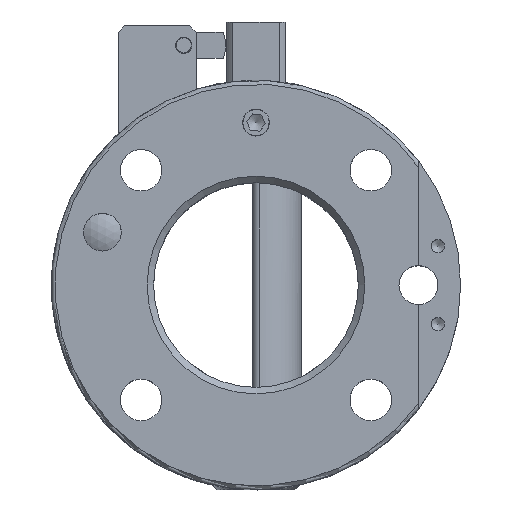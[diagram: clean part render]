
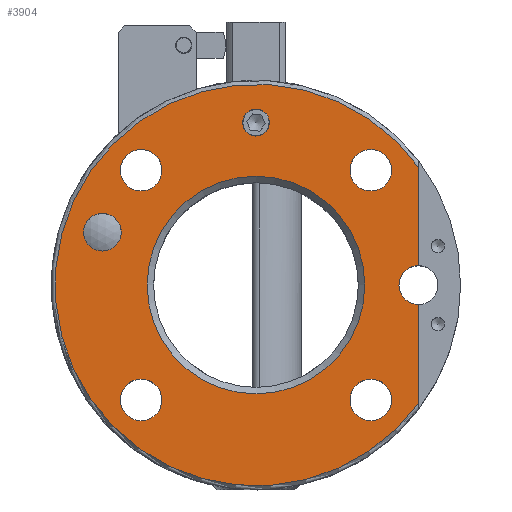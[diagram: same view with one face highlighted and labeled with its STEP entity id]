
A CAD part, top view. The second image highlights one B-rep face of the part: STEP entity #3904.
In plain terms, the highlighted planar face has unit normal (0, 0, 1).
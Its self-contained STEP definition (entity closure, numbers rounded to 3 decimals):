
#1875=CARTESIAN_POINT('',(2.067,25.0,0.0));
#1876=VERTEX_POINT('',#1875);
#1877=CARTESIAN_POINT('',(0.0,25.0,0.0));
#1878=DIRECTION('',(0.0,0.0,-1.0));
#1879=DIRECTION('',(1.0,0.0,0.0));
#1880=AXIS2_PLACEMENT_3D('',#1877,#1878,#1879);
#1881=CIRCLE('',#1880,2.067);
#1882=EDGE_CURVE('',#1876,#1876,#1881,.T.);
#3389=CARTESIAN_POINT('',(25.0,18.161,0.0));
#3390=VERTEX_POINT('',#3389);
#3405=CARTESIAN_POINT('',(25.0,-18.161,0.0));
#3406=VERTEX_POINT('',#3405);
#3420=CARTESIAN_POINT('',(0.0,0.0,0.0));
#3421=DIRECTION('',(0.0,0.0,-1.0));
#3422=DIRECTION('',(-1.0,0.0,0.0));
#3423=AXIS2_PLACEMENT_3D('',#3420,#3421,#3422);
#3424=CIRCLE('',#3423,30.9);
#3425=EDGE_CURVE('',#3406,#3390,#3424,.T.);
#3436=CARTESIAN_POINT('',(25.0,3.,0.0));
#3437=VERTEX_POINT('',#3436);
#3438=CARTESIAN_POINT('',(25.0,3.0,0.0));
#3439=DIRECTION('',(0.0,1.0,0.0));
#3440=VECTOR('',#3439,15.161);
#3441=LINE('',#3438,#3440);
#3442=EDGE_CURVE('',#3437,#3390,#3441,.T.);
#3470=CARTESIAN_POINT('',(-20.738,8.139,0.0));
#3471=VERTEX_POINT('',#3470);
#3472=CARTESIAN_POINT('',(-23.638,8.139,0.0));
#3473=DIRECTION('',(0.0,0.0,-1.0));
#3474=DIRECTION('',(-1.0,0.0,0.0));
#3475=AXIS2_PLACEMENT_3D('',#3472,#3473,#3474);
#3476=CIRCLE('',#3475,2.9);
#3477=EDGE_CURVE('',#3471,#3471,#3476,.T.);
#3527=CARTESIAN_POINT('',(-14.478,-17.678,0.0));
#3528=VERTEX_POINT('',#3527);
#3529=CARTESIAN_POINT('',(-17.678,-17.678,0.0));
#3530=DIRECTION('',(0.0,0.0,-1.0));
#3531=DIRECTION('',(-1.0,0.0,0.0));
#3532=AXIS2_PLACEMENT_3D('',#3529,#3530,#3531);
#3533=CIRCLE('',#3532,3.2);
#3534=EDGE_CURVE('',#3528,#3528,#3533,.T.);
#3587=CARTESIAN_POINT('',(-14.478,17.678,0.0));
#3588=VERTEX_POINT('',#3587);
#3589=CARTESIAN_POINT('',(-17.678,17.678,0.0));
#3590=DIRECTION('',(0.0,0.0,-1.0));
#3591=DIRECTION('',(-1.0,0.0,0.0));
#3592=AXIS2_PLACEMENT_3D('',#3589,#3590,#3591);
#3593=CIRCLE('',#3592,3.2);
#3594=EDGE_CURVE('',#3588,#3588,#3593,.T.);
#3653=CARTESIAN_POINT('',(20.878,17.678,0.0));
#3654=VERTEX_POINT('',#3653);
#3655=CARTESIAN_POINT('',(17.678,17.678,0.0));
#3656=DIRECTION('',(0.0,0.0,-1.0));
#3657=DIRECTION('',(-1.0,0.0,0.0));
#3658=AXIS2_PLACEMENT_3D('',#3655,#3656,#3657);
#3659=CIRCLE('',#3658,3.2);
#3660=EDGE_CURVE('',#3654,#3654,#3659,.T.);
#3713=CARTESIAN_POINT('',(20.878,-17.678,0.0));
#3714=VERTEX_POINT('',#3713);
#3715=CARTESIAN_POINT('',(17.678,-17.678,0.0));
#3716=DIRECTION('',(0.0,0.0,-1.0));
#3717=DIRECTION('',(-1.0,0.0,0.0));
#3718=AXIS2_PLACEMENT_3D('',#3715,#3716,#3717);
#3719=CIRCLE('',#3718,3.2);
#3720=EDGE_CURVE('',#3714,#3714,#3719,.T.);
#3817=CARTESIAN_POINT('',(25.0,-3.,0.0));
#3818=VERTEX_POINT('',#3817);
#3825=CARTESIAN_POINT('',(25.0,-18.161,0.0));
#3826=DIRECTION('',(0.0,1.0,0.0));
#3827=VECTOR('',#3826,15.161);
#3828=LINE('',#3825,#3827);
#3829=EDGE_CURVE('',#3406,#3818,#3828,.T.);
#3858=CARTESIAN_POINT('',(0.0,0.0,0.0));
#3859=DIRECTION('',(0.0,0.0,-1.0));
#3860=DIRECTION('',(-1.0,0.0,0.0));
#3861=AXIS2_PLACEMENT_3D('',#3858,#3859,#3860);
#3862=PLANE('',#3861);
#3863=ORIENTED_EDGE('',*,*,#3425,.F.);
#3864=ORIENTED_EDGE('',*,*,#3829,.T.);
#3865=CARTESIAN_POINT('',(25.0,0.0,0.0));
#3866=DIRECTION('',(0.0,0.0,-1.0));
#3867=DIRECTION('',(1.0,0.0,0.0));
#3868=AXIS2_PLACEMENT_3D('',#3865,#3866,#3867);
#3869=CIRCLE('',#3868,3.);
#3870=EDGE_CURVE('',#3818,#3437,#3869,.T.);
#3871=ORIENTED_EDGE('',*,*,#3870,.T.);
#3872=ORIENTED_EDGE('',*,*,#3442,.T.);
#3873=EDGE_LOOP('',(#3863,#3864,#3871,#3872));
#3874=FACE_OUTER_BOUND('',#3873,.T.);
#3875=ORIENTED_EDGE('',*,*,#3477,.T.);
#3876=EDGE_LOOP('',(#3875));
#3877=FACE_BOUND('',#3876,.T.);
#3878=ORIENTED_EDGE('',*,*,#3534,.T.);
#3879=EDGE_LOOP('',(#3878));
#3880=FACE_BOUND('',#3879,.T.);
#3881=ORIENTED_EDGE('',*,*,#3594,.T.);
#3882=EDGE_LOOP('',(#3881));
#3883=FACE_BOUND('',#3882,.T.);
#3884=ORIENTED_EDGE('',*,*,#3660,.T.);
#3885=EDGE_LOOP('',(#3884));
#3886=FACE_BOUND('',#3885,.T.);
#3887=ORIENTED_EDGE('',*,*,#3720,.T.);
#3888=EDGE_LOOP('',(#3887));
#3889=FACE_BOUND('',#3888,.T.);
#3890=CARTESIAN_POINT('',(16.75,0.,0.0));
#3891=VERTEX_POINT('',#3890);
#3892=CARTESIAN_POINT('',(0.0,0.0,0.0));
#3893=DIRECTION('',(0.0,0.0,1.0));
#3894=DIRECTION('',(-1.0,0.0,0.0));
#3895=AXIS2_PLACEMENT_3D('',#3892,#3893,#3894);
#3896=CIRCLE('',#3895,16.75);
#3897=EDGE_CURVE('',#3891,#3891,#3896,.T.);
#3898=ORIENTED_EDGE('',*,*,#3897,.F.);
#3899=EDGE_LOOP('',(#3898));
#3900=FACE_BOUND('',#3899,.T.);
#3901=ORIENTED_EDGE('',*,*,#1882,.T.);
#3902=EDGE_LOOP('',(#3901));
#3903=FACE_BOUND('',#3902,.T.);
#3904=ADVANCED_FACE('',(#3874,#3877,#3880,#3883,#3886,#3889,#3900,#3903),#3862,.F.);
